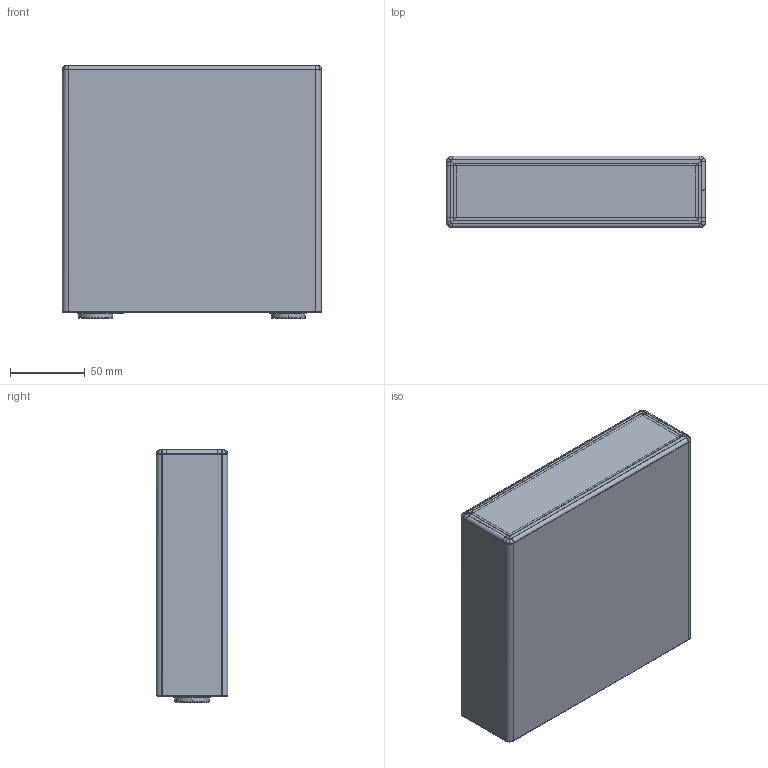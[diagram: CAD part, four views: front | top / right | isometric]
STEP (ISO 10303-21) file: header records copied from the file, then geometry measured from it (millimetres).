
FILE_DESCRIPTION((''),'2;1');
FILE_NAME('ASM0268_ASM','2019-11-22T',('Eco Power'),(''),'PRO/ENGINEER BY PARAMETRIC TECHNOLOGY CORPORATION, 2013050','PRO/ENGINEER BY PARAMETRIC TECHNOLOGY CORPORATION, 2013050','');
FILE_SCHEMA(('CONFIG_CONTROL_DESIGN'));
Length unit declared in the file: millimetre
Products named in the file (6): MANIFOLD_SOLID_BREP_4083; MANIFOLD_SOLID_BREP_5337; MANIFOLD_SOLID_BREP_5627; 120AH-CELL-M4-20170220_1_ASM; ASM0051_ASM_1_ASM; ASM0268_ASM
Assembly tree (5 placements, depth 4):
  ASM0268_ASM
    ASM0051_ASM_1_ASM
      120AH-CELL-M4-20170220_1_ASM
        MANIFOLD_SOLID_BREP_4083
        MANIFOLD_SOLID_BREP_5337
        MANIFOLD_SOLID_BREP_5627
Bounding box: 173.9 x 48 x 170.3 mm (x, y, z)
Volume: 92680.7 mm3; surface area: 351043.8 mm2
Topology: 3 solids, 4 shells, 287 faces, 736 edges, 454 vertices
Faces by surface type: plane 124, cylinder 99, torus 22, cone 22, bspline 20
Entity records: 9206 total; most frequent: CARTESIAN_POINT 2030, DIRECTION 1543, ORIENTED_EDGE 1450, EDGE_CURVE 732, AXIS2_PLACEMENT_3D 575, VERTEX_POINT 454, VECTOR 393, LINE 393
